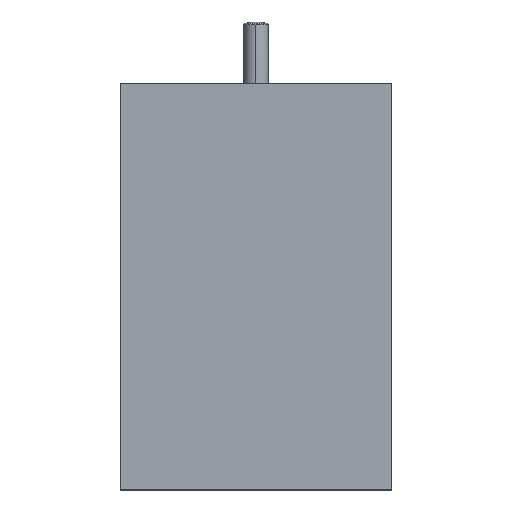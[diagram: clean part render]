
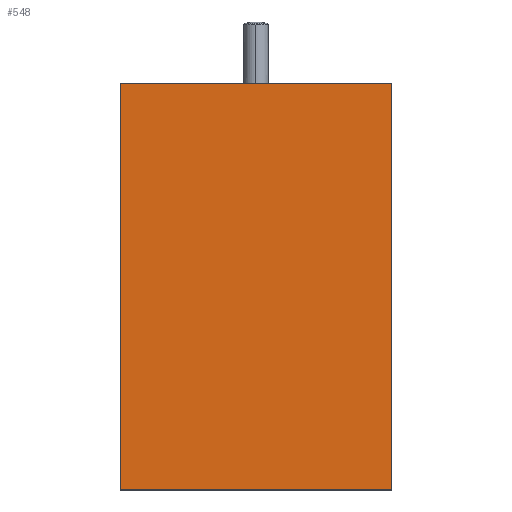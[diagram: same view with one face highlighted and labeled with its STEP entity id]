
A CAD part, top view. The second image highlights one B-rep face of the part: STEP entity #548.
In plain terms, the highlighted planar face has unit normal (0, 0, 1).
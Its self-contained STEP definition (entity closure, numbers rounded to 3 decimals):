
#183 = DIRECTION ( 'NONE',  ( -1., 0., 0. ) ) ;
#190 = VERTEX_POINT ( 'NONE', #1718 ) ;
#191 = EDGE_CURVE ( 'NONE', #1211, #317, #1426, .T. ) ;
#301 = CARTESIAN_POINT ( 'NONE',  ( 0., -54.989, 0. ) ) ;
#317 = VERTEX_POINT ( 'NONE', #817 ) ;
#355 = LINE ( 'NONE', #1040, #1625 ) ;
#406 = VECTOR ( 'NONE', #1270, 1000. ) ;
#420 = VERTEX_POINT ( 'NONE', #1402 ) ;
#462 = DIRECTION ( 'NONE',  ( 0., 0., 1. ) ) ;
#537 = ORIENTED_EDGE ( 'NONE', *, *, #1327, .F. ) ;
#548 = ADVANCED_FACE ( 'NONE', ( #1512 ), #725, .T. ) ;
#724 = LINE ( 'NONE', #878, #406 ) ;
#725 = PLANE ( 'NONE',  #1295 ) ;
#817 = CARTESIAN_POINT ( 'NONE',  ( 0., -54.989, 0. ) ) ;
#828 = ORIENTED_EDGE ( 'NONE', *, *, #191, .F. ) ;
#856 = ORIENTED_EDGE ( 'NONE', *, *, #1731, .F. ) ;
#878 = CARTESIAN_POINT ( 'NONE',  ( 0., 110., 0. ) ) ;
#999 = VECTOR ( 'NONE', #1088, 1000. ) ;
#1040 = CARTESIAN_POINT ( 'NONE',  ( 110., 110., 0. ) ) ;
#1088 = DIRECTION ( 'NONE',  ( 0., -1., 0. ) ) ;
#1130 = VECTOR ( 'NONE', #183, 1000. ) ;
#1203 = DIRECTION ( 'NONE',  ( 1., 0., 0. ) ) ;
#1211 = VERTEX_POINT ( 'NONE', #1405 ) ;
#1233 = EDGE_LOOP ( 'NONE', ( #1749, #856, #828, #537 ) ) ;
#1270 = DIRECTION ( 'NONE',  ( 0., 1., 0. ) ) ;
#1295 = AXIS2_PLACEMENT_3D ( 'NONE', #1720, #462, #1316 ) ;
#1316 = DIRECTION ( 'NONE',  ( 1., 0., 0. ) ) ;
#1327 = EDGE_CURVE ( 'NONE', #190, #1211, #1656, .T. ) ;
#1402 = CARTESIAN_POINT ( 'NONE',  ( 0., 110., 0. ) ) ;
#1405 = CARTESIAN_POINT ( 'NONE',  ( 110., -54.989, 0. ) ) ;
#1426 = LINE ( 'NONE', #301, #1130 ) ;
#1512 = FACE_OUTER_BOUND ( 'NONE', #1233, .T. ) ;
#1625 = VECTOR ( 'NONE', #1203, 1000. ) ;
#1656 = LINE ( 'NONE', #1787, #999 ) ;
#1718 = CARTESIAN_POINT ( 'NONE',  ( 110., 110., 0. ) ) ;
#1720 = CARTESIAN_POINT ( 'NONE',  ( 0., 0., 0. ) ) ;
#1731 = EDGE_CURVE ( 'NONE', #317, #420, #724, .T. ) ;
#1749 = ORIENTED_EDGE ( 'NONE', *, *, #1815, .F. ) ;
#1787 = CARTESIAN_POINT ( 'NONE',  ( 110., 0., 0. ) ) ;
#1815 = EDGE_CURVE ( 'NONE', #420, #190, #355, .T. ) ;
